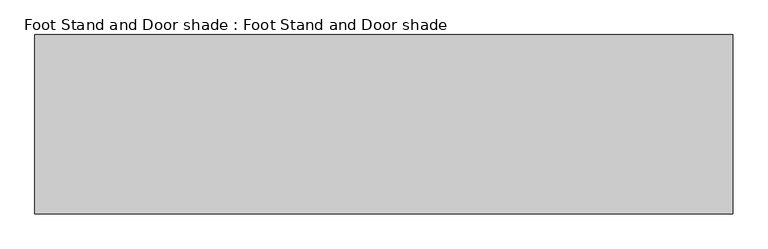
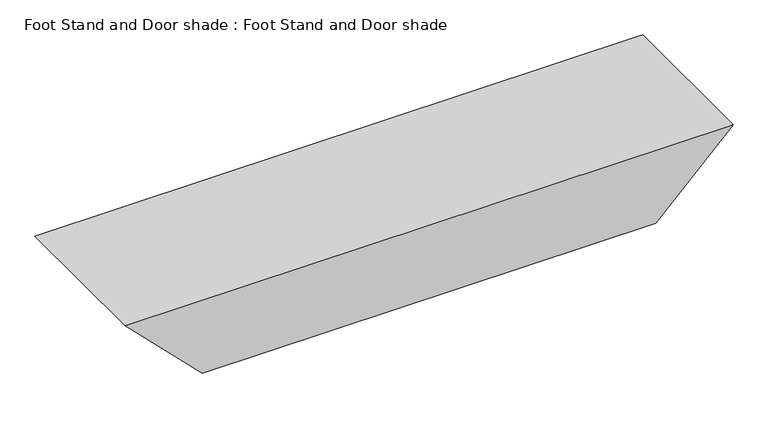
"""IFC4 building model written with IfcOpenShell, lengths in millimetres: beam geometry, Foot Stand and Door shade : Foot Stand and Door shade."""

from ifc_helpers import new_model, si_unit, frame, origin, place, context, project, spatial, polyline, outline, extrude, source, transform, mapped, element, save


def foot_stand_and_door_shade_foot_stand_and_door_shade_7551d113(model_context):
    return source(origin(), model_context, "Body", "SweptSolid", [
        extrude(outline(polyline([(2687.876, 60.3806761), (2537.0, 211.2566761), (2537.0, 1096.3038922), (2687.876, 1247.1798922), (2687.876, 60.3806761)])), frame((0.0, 249.0, 0.0), z_axis=(0.0, 1.0, 0.0), x_axis=(0.0, 0.0, 1.0)), (0.0, 0.0, 1.0), 305.0),
    ])


if __name__ == "__main__":
    model = new_model("IFC4")
    model_context = context("Model", 3, world=origin())
    ifc_project = project(units=[si_unit("LENGTHUNIT", "METRE", prefix="MILLI")], contexts=[model_context])
    site = spatial("IfcSite", under=ifc_project)
    building = spatial("IfcBuilding", under=site)
    placement = place(None, origin())
    foot_stand_and_door_shade_foot_stand_and_door_shade_shape = foot_stand_and_door_shade_foot_stand_and_door_shade_7551d113(model_context)
    element("IfcBeam", 1, ObjectType="Foot Stand and Door shade : Foot Stand and Door shade", at=placement, inside=building, context=model_context, shape_type="MappedRepresentation", body=[
        mapped(foot_stand_and_door_shade_foot_stand_and_door_shade_shape, transform((0.0, 0.0, 0.0), x_axis=(1.0, 0.0, 0.0), y_axis=(0.0, 1.0, 0.0), z_axis=(0.0, 0.0, 1.0))),
    ])
    save(model, "model.ifc")
